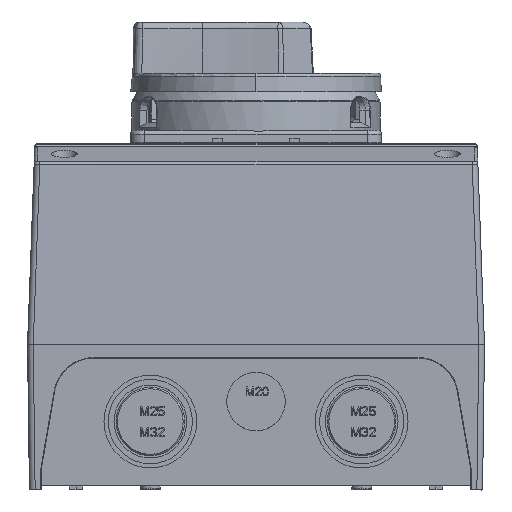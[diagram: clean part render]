
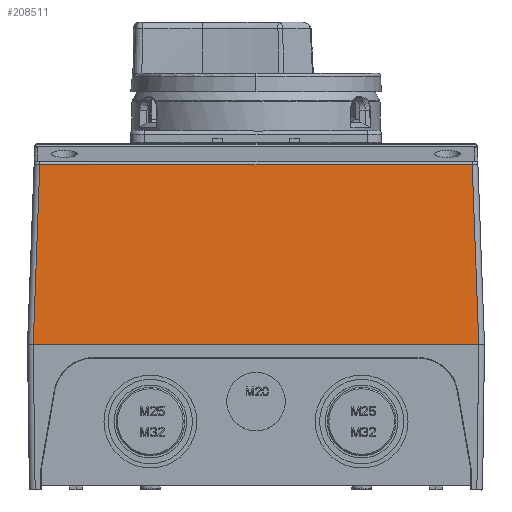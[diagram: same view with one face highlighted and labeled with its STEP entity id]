
A CAD part, left-side view. The second image highlights one B-rep face of the part: STEP entity #208511.
In plain terms, the highlighted planar face has unit normal (-0.999, 0, 0.037) as drawn and (0, 0.037, -0.999) by its records, which use the part's own axes.
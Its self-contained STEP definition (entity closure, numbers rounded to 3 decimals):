
#767 = CARTESIAN_POINT ( 'NONE',  ( 75.694, 62.925, -118.193 ) ) ;
#4038 = EDGE_CURVE ( 'NONE', #147297, #153859, #95737, .T. ) ;
#8337 = EDGE_LOOP ( 'NONE', ( #59854, #63654, #144094, #168155 ) ) ;
#12886 = CARTESIAN_POINT ( 'NONE',  ( -78.001, 0., -120.5 ) ) ;
#18590 = VERTEX_POINT ( 'NONE', #22009 ) ;
#22009 = CARTESIAN_POINT ( 'NONE',  ( 75.694, 62.925, -118.193 ) ) ;
#30487 = CARTESIAN_POINT ( 'NONE',  ( 77.232, 20.975, -119.731 ) ) ;
#32634 = CARTESIAN_POINT ( 'NONE',  ( 25.231, 62.925, -118.193 ) ) ;
#33590 = EDGE_CURVE ( 'NONE', #71377, #18590, #48689, .T. ) ;
#33681 = CARTESIAN_POINT ( 'NONE',  ( -25.231, 62.925, -118.193 ) ) ;
#35187 = CARTESIAN_POINT ( 'NONE',  ( 84.818, 0., -120.5 ) ) ;
#45766 = CARTESIAN_POINT ( 'NONE',  ( 78.001, 0., -120.5 ) ) ;
#48689 = B_SPLINE_CURVE_WITH_KNOTS ( 'NONE', 3,
 ( #146392, #33681, #32634, #767 ),
 .UNSPECIFIED., .F., .F.,
 ( 4, 4 ),
 ( 0., 1. ),
 .UNSPECIFIED. ) ;
#58683 = B_SPLINE_CURVE_WITH_KNOTS ( 'NONE', 3,
 ( #193589, #78825, #113879, #12886 ),
 .UNSPECIFIED., .F., .F.,
 ( 4, 4 ),
 ( 0., 1. ),
 .UNSPECIFIED. ) ;
#59854 = ORIENTED_EDGE ( 'NONE', *, *, #136966, .T. ) ;
#63654 = ORIENTED_EDGE ( 'NONE', *, *, #4038, .T. ) ;
#68156 = FACE_OUTER_BOUND ( 'NONE', #8337, .T. ) ;
#71377 = VERTEX_POINT ( 'NONE', #163936 ) ;
#78741 = DIRECTION ( 'NONE',  ( -1., 0., 0. ) ) ;
#78825 = CARTESIAN_POINT ( 'NONE',  ( -76.463, 41.95, -118.962 ) ) ;
#95737 = LINE ( 'NONE', #45766, #207014 ) ;
#101108 = PLANE ( 'NONE',  #112826 ) ;
#112826 = AXIS2_PLACEMENT_3D ( 'NONE', #35187, #194680, #178769 ) ;
#113879 = CARTESIAN_POINT ( 'NONE',  ( -77.232, 20.975, -119.731 ) ) ;
#130441 = CARTESIAN_POINT ( 'NONE',  ( 76.463, 41.95, -118.962 ) ) ;
#132718 = B_SPLINE_CURVE_WITH_KNOTS ( 'NONE', 3,
 ( #160205, #130441, #30487, #147396 ),
 .UNSPECIFIED., .F., .F.,
 ( 4, 4 ),
 ( 0., 1. ),
 .UNSPECIFIED. ) ;
#136966 = EDGE_CURVE ( 'NONE', #18590, #147297, #132718, .T. ) ;
#144094 = ORIENTED_EDGE ( 'NONE', *, *, #167402, .F. ) ;
#146392 = CARTESIAN_POINT ( 'NONE',  ( -75.694, 62.925, -118.193 ) ) ;
#147297 = VERTEX_POINT ( 'NONE', #153047 ) ;
#147396 = CARTESIAN_POINT ( 'NONE',  ( 78.001, 0., -120.5 ) ) ;
#153047 = CARTESIAN_POINT ( 'NONE',  ( 78.001, 0., -120.5 ) ) ;
#153859 = VERTEX_POINT ( 'NONE', #156526 ) ;
#156526 = CARTESIAN_POINT ( 'NONE',  ( -78.001, 0., -120.5 ) ) ;
#160205 = CARTESIAN_POINT ( 'NONE',  ( 75.694, 62.925, -118.193 ) ) ;
#163936 = CARTESIAN_POINT ( 'NONE',  ( -75.694, 62.925, -118.193 ) ) ;
#167402 = EDGE_CURVE ( 'NONE', #71377, #153859, #58683, .T. ) ;
#168155 = ORIENTED_EDGE ( 'NONE', *, *, #33590, .T. ) ;
#178769 = DIRECTION ( 'NONE',  ( -1., 0., 0. ) ) ;
#193589 = CARTESIAN_POINT ( 'NONE',  ( -75.694, 62.925, -118.193 ) ) ;
#194680 = DIRECTION ( 'NONE',  ( 0., 0.037, -0.999 ) ) ;
#207014 = VECTOR ( 'NONE', #78741, 1000. ) ;
#208511 = ADVANCED_FACE ( 'NONE', ( #68156 ), #101108, .T. ) ;
